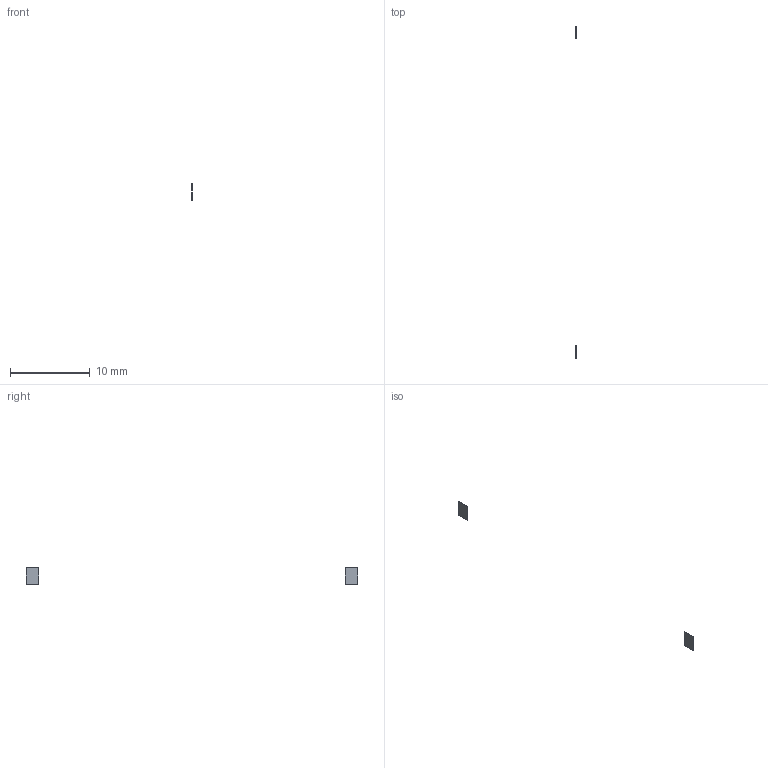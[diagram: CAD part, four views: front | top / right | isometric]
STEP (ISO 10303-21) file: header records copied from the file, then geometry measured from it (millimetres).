
FILE_DESCRIPTION(/* description */ (''),/* implementation_level */ '2;1');
FILE_NAME(/* name */ 'C28_R3_PTT_Travel_Stop_Shims_0p10.step',/* time_stamp */ '2026-09-10T17:49:54-07:00',/* author */ (''),/* organization */ (''),/* preprocessor_version */ 'ST-DEVELOPER v20.1',/* originating_system */ 'Autodesk Translation Framework v15.8.0.0',/* authorisation */ '');
FILE_SCHEMA (('AUTOMOTIVE_DESIGN { 1 0 10303 214 3 1 1 }'));
Length unit declared in the file: millimetre
Products named in the file (1): 2026-09-10-17-49-54-892
Bounding box: 0.1 x 41.6 x 2.1 mm (x, y, z)
Volume: 0.7 mm3; surface area: 14.9 mm2
Topology: 2 solids, 2 shells, 12 faces, 24 edges, 16 vertices
Faces by surface type: plane 12
Entity records: 340 total; most frequent: CARTESIAN_POINT 53, DIRECTION 50, ORIENTED_EDGE 48, LINE 24, VECTOR 24, EDGE_CURVE 24, VERTEX_POINT 16, AXIS2_PLACEMENT_3D 13
